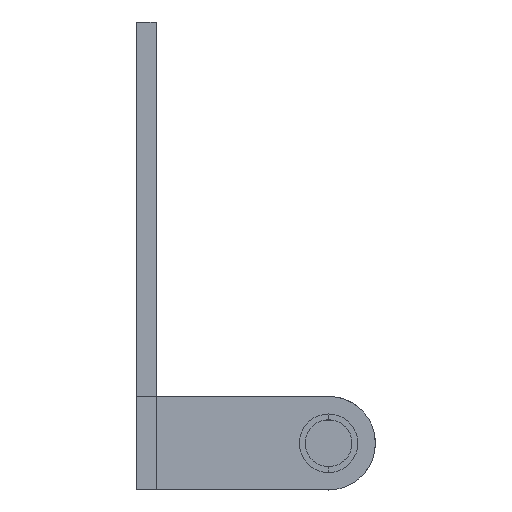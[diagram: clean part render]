
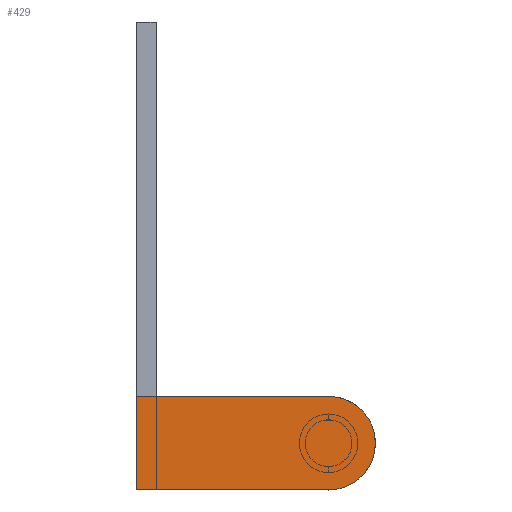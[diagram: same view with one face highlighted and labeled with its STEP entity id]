
A CAD part, front view. The second image highlights one B-rep face of the part: STEP entity #429.
In plain terms, the highlighted planar face has unit normal (0, -1, 0).
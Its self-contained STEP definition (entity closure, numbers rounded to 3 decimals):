
#429=ADVANCED_FACE('',(#1151),#10635,.T.);
#1151=FACE_OUTER_BOUND('',#1873,.T.);
#1873=EDGE_LOOP('',(#3909,#3910,#3911,#3912));
#3909=ORIENTED_EDGE('',*,*,#6132,.T.);
#3910=ORIENTED_EDGE('',*,*,#6133,.F.);
#3911=ORIENTED_EDGE('',*,*,#6134,.T.);
#3912=ORIENTED_EDGE('',*,*,#6116,.F.);
#6116=EDGE_CURVE('',#9543,#9544,#8145,.T.);
#6132=EDGE_CURVE('',#9543,#9557,#7590,.T.);
#6133=EDGE_CURVE('',#9556,#9557,#7591,.T.);
#6134=EDGE_CURVE('',#9556,#9544,#7592,.T.);
#7590=B_SPLINE_CURVE_WITH_KNOTS('',1,(#20783,#20784),.UNSPECIFIED.,.F.,
 .F.,(2,2),(0.,19.682),.UNSPECIFIED.);
#7591=B_SPLINE_CURVE_WITH_KNOTS('',1,(#20785,#20786),.UNSPECIFIED.,.F.,
 .F.,(2,2),(-9.6,0.),.UNSPECIFIED.);
#7592=B_SPLINE_CURVE_WITH_KNOTS('',1,(#20787,#20788),.UNSPECIFIED.,.F.,
 .F.,(2,2),(0.,19.682),.UNSPECIFIED.);
#8145=TRIMMED_CURVE($,#8894,(#20750),(#20751),.T.,.CARTESIAN.);
#8894=CIRCLE('',#11387,4.8);
#9543=VERTEX_POINT('',#18496);
#9544=VERTEX_POINT('',#18497);
#9556=VERTEX_POINT('',#18509);
#9557=VERTEX_POINT('',#18510);
#10635=PLANE('',#10837);
#10837=AXIS2_PLACEMENT_3D('',#18046,#11807,$);
#11387=AXIS2_PLACEMENT_3D($,#20749,#12903,#12904);
#11807=DIRECTION('',(0.,-1.,0.));
#12903=DIRECTION('',(0.,1.,0.));
#12904=DIRECTION('',(0.,0.,1.));
#18046=CARTESIAN_POINT('',(-14.701,-212.439,13.893));
#18496=CARTESIAN_POINT('',(7.441,-212.439,12.921));
#18497=CARTESIAN_POINT('',(7.441,-212.439,3.321));
#18509=CARTESIAN_POINT('',(-12.241,-212.439,3.321));
#18510=CARTESIAN_POINT('',(-12.241,-212.439,12.921));
#20749=CARTESIAN_POINT('',(7.441,-212.439,8.121));
#20750=CARTESIAN_POINT('',(7.441,-212.439,12.921));
#20751=CARTESIAN_POINT('',(7.441,-212.439,3.321));
#20783=CARTESIAN_POINT('',(7.441,-212.439,12.921));
#20784=CARTESIAN_POINT('',(-12.241,-212.439,12.921));
#20785=CARTESIAN_POINT('',(-12.241,-212.439,3.321));
#20786=CARTESIAN_POINT('',(-12.241,-212.439,12.921));
#20787=CARTESIAN_POINT('',(-12.241,-212.439,3.321));
#20788=CARTESIAN_POINT('',(7.441,-212.439,3.321));
